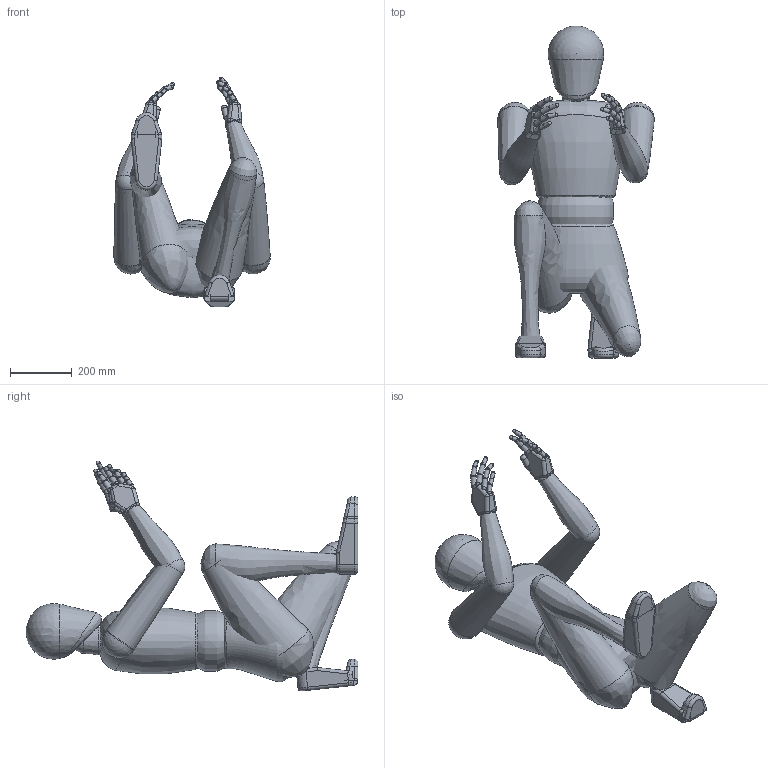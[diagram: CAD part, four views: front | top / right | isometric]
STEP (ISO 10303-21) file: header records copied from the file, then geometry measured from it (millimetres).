
FILE_DESCRIPTION(/* description */ (''),/* implementation_level */ '2;1');
FILE_NAME(/* name */ 'C:\Users\D\Documents\Inventor\各種小物\デッサン人形\170\投稿用\16-しゃがんで作業-中段\16-ragdoll-stp.stp',/* time_stamp */ '2022-04-15T13:33:02+09:00',/* author */ ('D'),/* organization */ (''),/* preprocessor_version */ 'ST-DEVELOPER v18',/* originating_system */ 'Autodesk Inventor 2020',/* authorisation */ '');
FILE_SCHEMA (('AUTOMOTIVE_DESIGN { 1 0 10303 214 3 1 1 }'));
Length unit declared in the file: millimetre
Products named in the file (29): 170; Part3; Part2; Part1; Part1_1; Part2_1; Part3_1; Part3_2; Part5; Part6; Part4; Head; 握る_R; 握る_L; Part1_2; Part1_3; Part1_4; Part1_5; Part1_6; Part1_7; Part1_8; Part1_9; Part1_10; Part1_11; Part1_12; Part1_13; Part1_14; Part1_15; Part1_16
Assembly tree (49 placements, depth 3):
  170
    Part3
    Part2
    Part1
    Part1_1  x2
    Part2_1  x2
    Part3_1  x2
    Part3_2  x2
    Part5  x2
    Part6  x2
    Part4
    Head
    握る_R
      Part1_2
      Part1_3
      Part1_4
      Part1_5
      Part1_6
      Part1_7
      Part1_8
      Part1_9
      Part1_10
      Part1_11
      Part1_12
      Part1_13
      Part1_14
      Part1_15
      Part1_16
    握る_L
      Part1_2
      Part1_3
      Part1_4
      Part1_5
      Part1_6
      Part1_7
      Part1_8
      Part1_9
      Part1_10
      Part1_11
      Part1_12
      Part1_13
      Part1_14
      Part1_15
      Part1_16
Bounding box: 504.78 x 1071.37 x 742.11 mm (x, y, z)
Volume: 67439779.8 mm3; surface area: 2314391.1 mm2
Topology: 47 solids, 47 shells, 330 faces, 898 edges, 538 vertices
Faces by surface type: sphere 115, cylinder 75, plane 59, bspline 38, cone 29, torus 14
Full cylindrical faces by diameter (mm): 20 x2
Entity records: 11119 total; most frequent: CARTESIAN_POINT 5807, DIRECTION 1009, ORIENTED_EDGE 806, AXIS2_PLACEMENT_3D 454, EDGE_CURVE 403, VERTEX_POINT 300, EDGE_LOOP 213, CIRCLE 197
